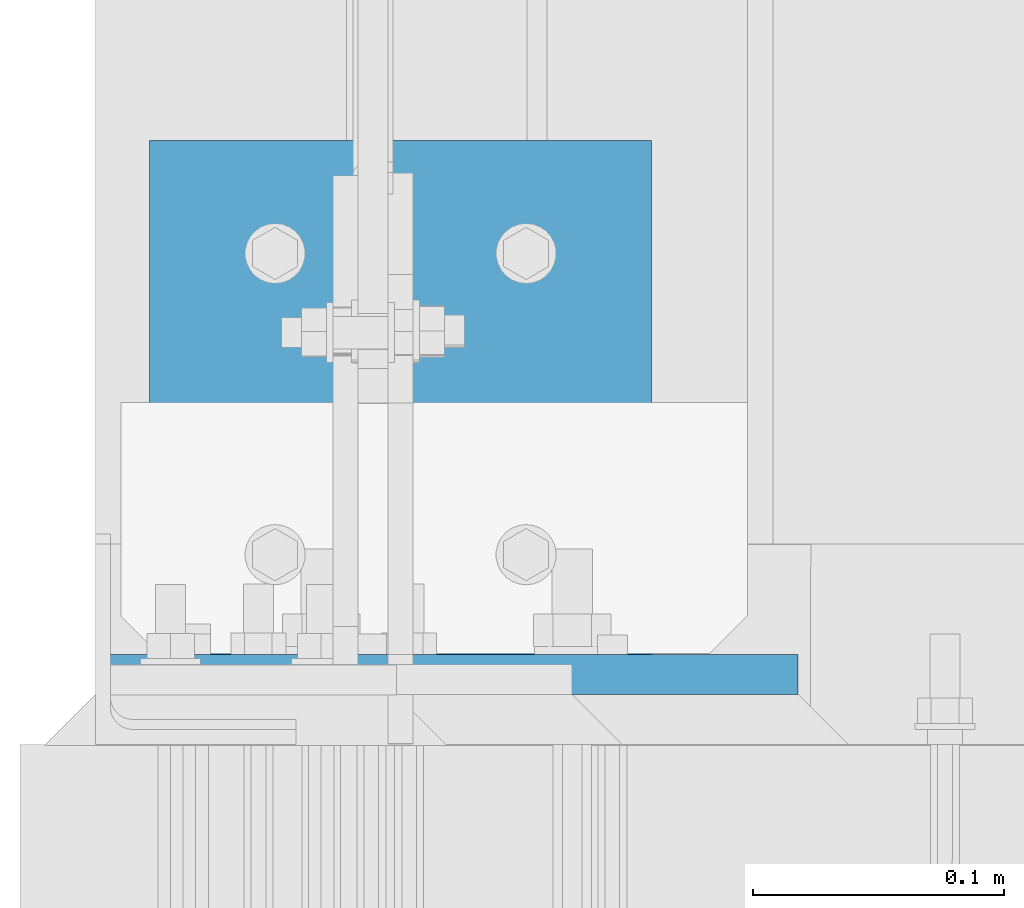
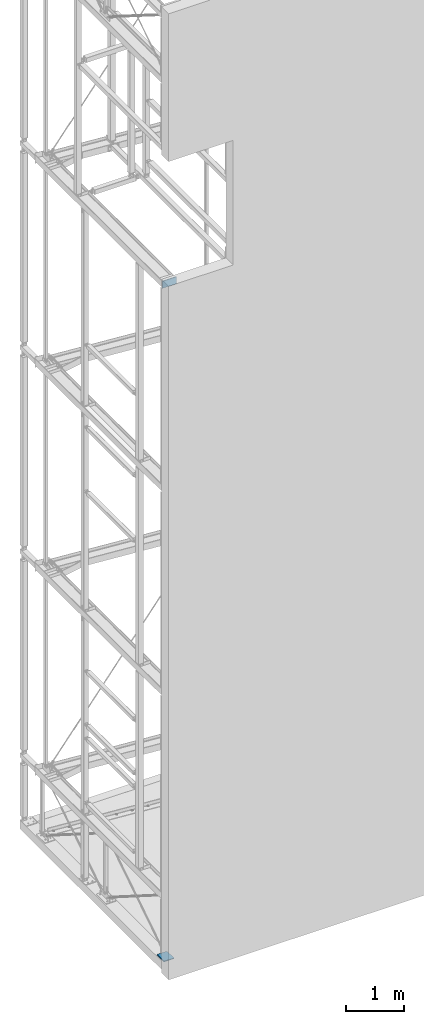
# One storey, part 59 of 271: 2 beams, 2 elements without a shape of their own.
"""IFC2X3 building model written with IfcOpenShell, lengths in millimetres."""

from ifc_helpers import new_model, si_unit, frame, origin_with_axes, origin_2d_with_axis, place, context, subcontext, project, spatial, rectangle, extrude, material, type_object, element, aggregate, save


model = new_model("IFC2X3")

# Units and contexts
model_context = context("Model", 3, precision=1e-05, world=origin_with_axes())
body_context = subcontext(model_context, "Body", "Model", "MODEL_VIEW")
ifc_project = project(units=[si_unit("LENGTHUNIT", "METRE", prefix="MILLI"), si_unit("AREAUNIT", "SQUARE_METRE"), si_unit("VOLUMEUNIT", "CUBIC_METRE"), si_unit("MASSUNIT", "GRAM", prefix="KILO"), si_unit("TIMEUNIT", "SECOND"), si_unit("PLANEANGLEUNIT", "RADIAN"), si_unit("SOLIDANGLEUNIT", "STERADIAN"), si_unit("THERMODYNAMICTEMPERATUREUNIT", "DEGREE_CELSIUS"), si_unit("LUMINOUSINTENSITYUNIT", "LUMEN")], contexts=[model_context])

# Site, building, storey
site_placement = place(None, origin_with_axes())
site = spatial("IfcSite", under=ifc_project, at=site_placement, Name="Undefined", CompositionType="ELEMENT")
building_placement = place(site_placement, origin_with_axes())
building = spatial("IfcBuilding", under=site, at=building_placement, Name="Undefined", CompositionType="ELEMENT")
storey_placement = place(building_placement, origin_with_axes())
storey = spatial("IfcBuildingStorey", under=building, at=storey_placement, Name="Undefined", CompositionType="ELEMENT", Elevation=0.0)

# Assembly, beam
assembly_1_placement = place(storey_placement, origin_with_axes())
assembly_1 = element("IfcElementAssembly", 1, at=assembly_1_placement, inside=storey, Name="BELKA", AssemblyPlace="NOTDEFINED", PredefinedType="RIGID_FRAME")
ifc_material = material(Name="STEEL/S355JR")
beam_type_1 = type_object("IfcBeamType", Name="PL240*16", PredefinedType="NOTDEFINED")
beam_1_placement = place(assembly_1_placement, frame((10.0, 120.0, -8.0), z_axis=(0.0, -1.0, 0.0), x_axis=(1.0, 0.0, 0.0)))
beam_1 = element("IfcBeam", 2, at=beam_1_placement, type_object=beam_type_1, material=ifc_material, Name="BELKA", ObjectType="PL240*16", context=body_context, shape_type="SweptSolid", body=[
    extrude(rectangle(XDim=16.0, YDim=240.0, at=origin_2d_with_axis()), frame((200.0, 0.0, 0.0), z_axis=(-1.0, 0.0, 1.38777878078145e-17), x_axis=(0.0, -1.0, 0.0)), (0.0, 0.0, 1.0), 200.0),
])
aggregate(assembly_1, [beam_1])

assembly_2_placement = place(storey_placement, origin_with_axes())
assembly_2 = element("IfcElementAssembly", 3, at=assembly_2_placement, inside=storey, AssemblyPlace="NOTDEFINED", PredefinedType="RIGID_FRAME")
beam_type_2 = type_object("IfcBeamType", Name="BL16*148", PredefinedType="NOTDEFINED")
beam_2_placement = place(assembly_2_placement, frame((-11.6243129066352, 27.3249842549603, 14318.3499999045), z_axis=(0.0, 0.0, -1.0), x_axis=(1.0, 0.0, 0.0)))
beam_2 = element("IfcBeam", 4, at=beam_2_placement, type_object=beam_type_2, material=ifc_material, Name="BLACHA_PODSTAWY", ObjectType="BL16*148", context=body_context, shape_type="SweptSolid", body=[
    extrude(rectangle(XDim=16.0, YDim=148.0, at=origin_2d_with_axis()), frame((280.0, 0.0, 0.0), z_axis=(-1.0, 0.0, 1.38777878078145e-17), x_axis=(0.0, -1.0, 0.0)), (0.0, 0.0, 1.0), 280.0),
])
aggregate(assembly_2, [beam_2])

save(model, "model.ifc")
